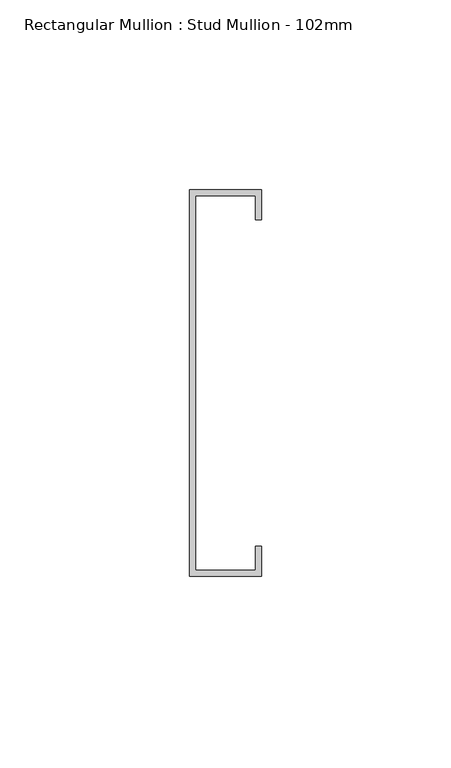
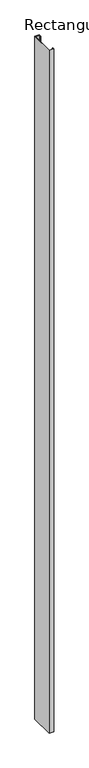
"""IFC4 building model written with IfcOpenShell, lengths in millimetres: member geometry, Rectangular Mullion : Stud Mullion - 102mm."""

from ifc_helpers import new_model, si_unit, frame, origin, place, context, project, spatial, polyline, outline, extrude, source, transform, mapped, element, save


def rectangular_mullion_stud_mullion_102mm_f78c933b(model_context):
    return source(origin(), model_context, "Body", "SweptSolid", [
        extrude(outline(polyline([(9.5, 43.0), (7.9, 43.0), (7.9, 49.4), (-7.9, 49.4), (-7.9, -49.4), (7.9, -49.4), (7.9, -43.0), (9.5, -43.0), (9.5, -51.0), (-9.5, -51.0), (-9.5, 51.0), (9.5, 51.0), (9.5, 43.0)])), frame((0.0, 0.0, -3000.0), z_axis=(0.0, 0.0, 1.0), x_axis=(1.0, 0.0, 0.0)), (0.0, 0.0, 1.0), 3000.0),
    ])


if __name__ == "__main__":
    model = new_model("IFC4")
    model_context = context("Model", 3, world=origin())
    ifc_project = project(units=[si_unit("LENGTHUNIT", "METRE", prefix="MILLI")], contexts=[model_context])
    site = spatial("IfcSite", under=ifc_project)
    building = spatial("IfcBuilding", under=site)
    placement = place(None, origin())
    rectangular_mullion_stud_mullion_102mm_shape = rectangular_mullion_stud_mullion_102mm_f78c933b(model_context)
    element("IfcMember", 1, ObjectType="Rectangular Mullion : Stud Mullion - 102mm", at=placement, inside=building, context=model_context, shape_type="MappedRepresentation", body=[
        mapped(rectangular_mullion_stud_mullion_102mm_shape, transform((0.0, 0.0, 0.0), x_axis=(1.0, 0.0, 0.0), y_axis=(0.0, 1.0, 0.0), z_axis=(0.0, 0.0, 1.0))),
    ])
    save(model, "model.ifc")
